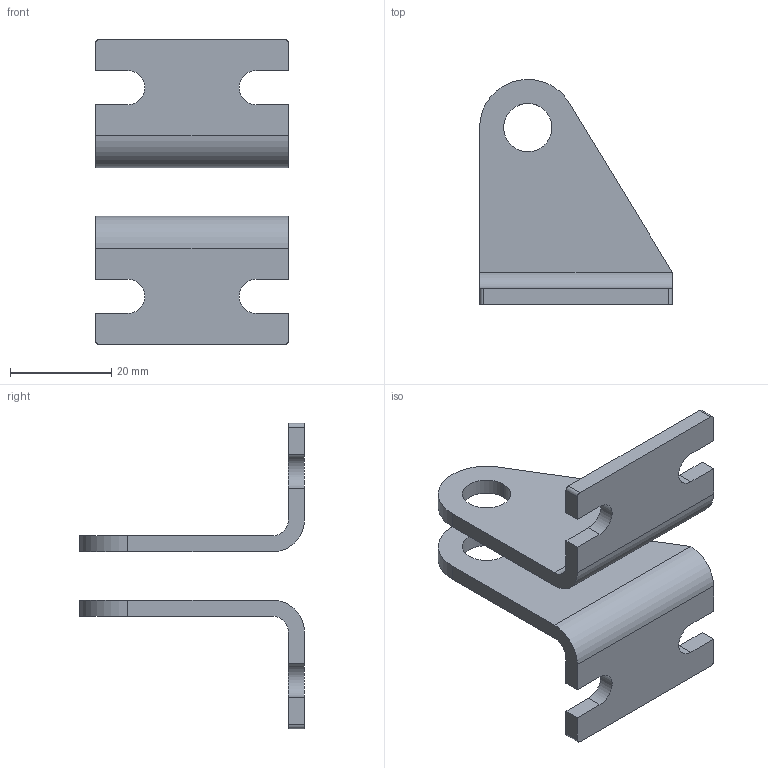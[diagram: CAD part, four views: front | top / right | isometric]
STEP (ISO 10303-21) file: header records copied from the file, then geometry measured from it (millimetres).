
FILE_DESCRIPTION((''),'2;1');
FILE_NAME('M029004_ASM','2020-02-13T16:51:05',('MeFernandez'),('ASCO Numatics'),'CREO PARAMETRIC BY PTC INC, 2018190','CREO PARAMETRIC BY PTC INC, 2018190','');
FILE_SCHEMA(('AUTOMOTIVE_DESIGN_CC2 { 1 2 10303 214 -1 1 5 2 }'));
Length unit declared in the file: inch
Products named in the file (3): M029004L; M029004R; M029004_ASM
Assembly tree (2 placements, depth 2):
  M029004_ASM
    M029004L
    M029004R
Bounding box: 38.1 x 44.45 x 60.33 mm (x, y, z)
Volume: 11445.5 mm3; surface area: 8773 mm2
Topology: 2 solids, 2 shells, 46 faces, 122 edges, 80 vertices
Faces by surface type: plane 28, cylinder 18
Entity records: 1926 total; most frequent: DIRECTION 260, CARTESIAN_POINT 253, ORIENTED_EDGE 244, PRESENTATION_STYLE_ASSIGNMENT 124, STYLED_ITEM 124, CURVE_STYLE 122, EDGE_CURVE 122, AXIS2_PLACEMENT_3D 87
